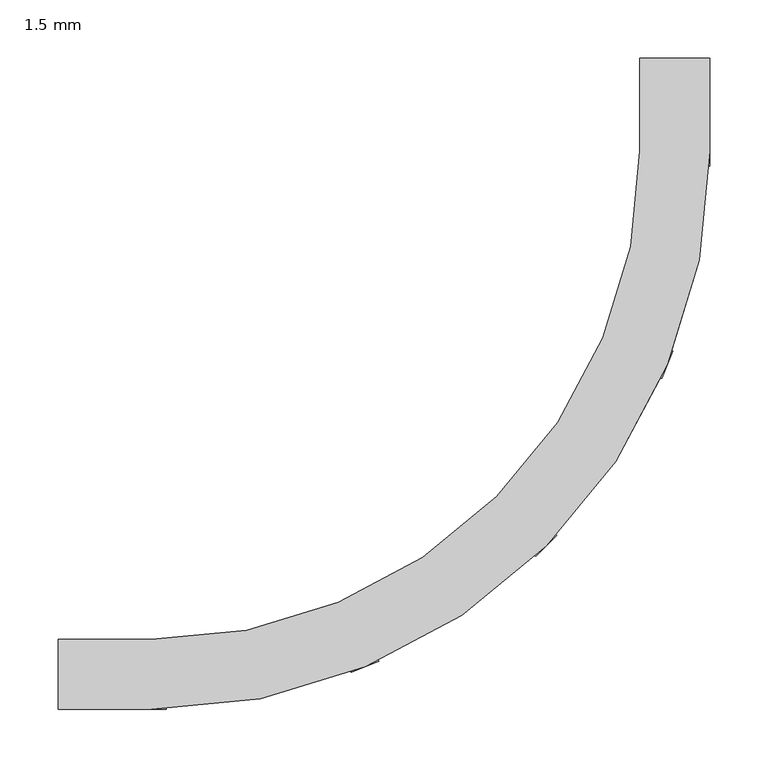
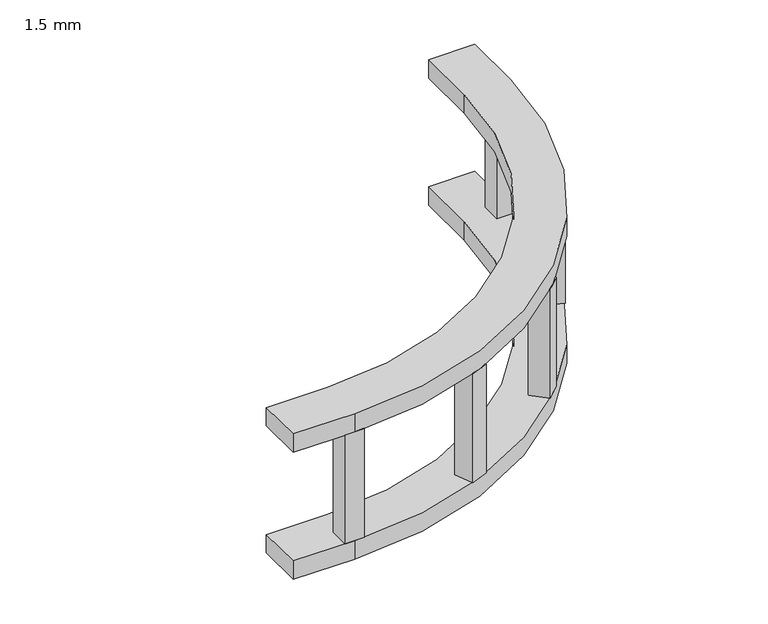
"""IFC4 building model written with IfcOpenShell, lengths in millimetres: cable carrier fitting geometry, BAKS_Łuk_pionowy_drabiny_wew E90 : 1.5 mm."""

from ifc_helpers import new_model, si_unit, point, frame, frame_2d, origin, place, context, project, spatial, polyline, circle_curve, trimmed, segment, composite_curve, outline, extrude, source, transform, mapped, element, save


def cable_carrier_fitting_1_5_mm_7721eeaa(model_context):
    return source(origin(), model_context, "Body", "SweptSolid", [
        extrude(outline(polyline([(-25.1442849, 287.7653817), (-1.6777448, 278.0452225), (-11.397904, 254.5786824), (-34.8644441, 264.2988416), (-25.1442849, 287.7653817)])), frame((0.0, 0.0, -74.6), z_axis=(0.0, 0.0, 1.0), x_axis=(1.0, 0.0, 0.0)), (0.0, 0.0, 1.0), 149.2),
        extrude(outline(polyline([(-264.2988416, 34.8644441), (-254.5786824, 11.397904), (-278.0452225, 1.6777448), (-287.7653817, 25.1442849), (-264.2988416, 34.8644441)])), frame((0.0, 0.0, -74.6), z_axis=(0.0, 0.0, 1.0), x_axis=(1.0, 0.0, 0.0)), (0.0, 0.0, 1.0), 149.2),
        extrude(outline(polyline([(4.6, 462.7), (30.0, 462.7), (30.0, 437.3), (4.6, 437.3), (4.6, 462.7)])), frame((0.0, 0.0, -74.6), z_axis=(0.0, 0.0, 1.0), x_axis=(1.0, 0.0, 0.0)), (0.0, 0.0, 1.0), 149.2),
        extrude(outline(polyline([(-119.5690011, 137.5295134), (-101.6084889, 119.5690011), (-119.5690011, 101.6084889), (-137.5295134, 119.5690011), (-119.5690011, 137.5295134)])), frame((0.0, 0.0, -74.6), z_axis=(0.0, 0.0, 1.0), x_axis=(1.0, 0.0, 0.0)), (0.0, 0.0, 1.0), 149.2),
        extrude(outline(polyline([(-462.7, -30.0), (-462.7, -4.6), (-437.3, -4.6), (-437.3, -30.0), (-462.7, -30.0)])), frame((0.0, 0.0, -74.6), z_axis=(0.0, 0.0, 1.0), x_axis=(1.0, 0.0, 0.0)), (0.0, 0.0, 1.0), 149.2),
        extrude(outline(composite_curve([segment(polyline([(-530.0, -30.0), (-530.0, 30.0), (-450.0, 30.0)]), True, "CONTINUOUS"), segment(trimmed(circle_curve(frame_2d((-450.0, 450.0)), 420.0), [point((-450.0, 30.0))], [point((-30.0, 450.0))], True, "CARTESIAN"), True, "CONTINUOUS"), segment(polyline([(-30.0, 450.0), (-30.0, 530.0), (30.0, 530.0), (30.0, 450.0)]), True, "CONTINUOUS"), segment(trimmed(circle_curve(frame_2d((-450.0, 450.0)), 480.0), [point((30.0, 450.0))], [point((-450.0, -30.0))], False, "CARTESIAN"), True, "CONTINUOUS"), segment(polyline([(-450.0, -30.0), (-530.0, -30.0)]), True, "CONTINUOUS")], self_intersect=False)), frame((0.0, 0.0, 74.6), z_axis=(0.0, 0.0, 1.0), x_axis=(1.0, 0.0, 0.0)), (0.0, 0.0, 1.0), 25.4),
        extrude(outline(composite_curve([segment(polyline([(-530.0, -30.0), (-530.0, 30.0), (-450.0, 30.0)]), True, "CONTINUOUS"), segment(trimmed(circle_curve(frame_2d((-450.0, 450.0)), 420.0), [point((-450.0, 30.0))], [point((-30.0, 450.0))], True, "CARTESIAN"), True, "CONTINUOUS"), segment(polyline([(-30.0, 450.0), (-30.0, 530.0), (30.0, 530.0), (30.0, 450.0)]), True, "CONTINUOUS"), segment(trimmed(circle_curve(frame_2d((-450.0, 450.0)), 480.0), [point((30.0, 450.0))], [point((-450.0, -30.0))], False, "CARTESIAN"), True, "CONTINUOUS"), segment(polyline([(-450.0, -30.0), (-530.0, -30.0)]), True, "CONTINUOUS")], self_intersect=False)), frame((0.0, 0.0, -100.0), z_axis=(0.0, 0.0, 1.0), x_axis=(1.0, 0.0, 0.0)), (0.0, 0.0, 1.0), 25.4),
    ])


if __name__ == "__main__":
    model = new_model("IFC4")
    model_context = context("Model", 3, world=origin())
    ifc_project = project(units=[si_unit("LENGTHUNIT", "METRE", prefix="MILLI")], contexts=[model_context])
    site = spatial("IfcSite", under=ifc_project)
    building = spatial("IfcBuilding", under=site)
    placement = place(None, origin())
    cable_carrier_fitting_1_5_mm_shape = cable_carrier_fitting_1_5_mm_7721eeaa(model_context)
    element("IfcCableCarrierFitting", 1, ObjectType="BAKS_Łuk_pionowy_drabiny_wew E90 : 1.5 mm", at=placement, inside=building, context=model_context, shape_type="MappedRepresentation", body=[
        mapped(cable_carrier_fitting_1_5_mm_shape, transform((0.0, 0.0, 0.0), x_axis=(1.0, 0.0, 0.0), y_axis=(0.0, 1.0, 0.0), z_axis=(0.0, 0.0, 1.0))),
    ])
    save(model, "model.ifc")
